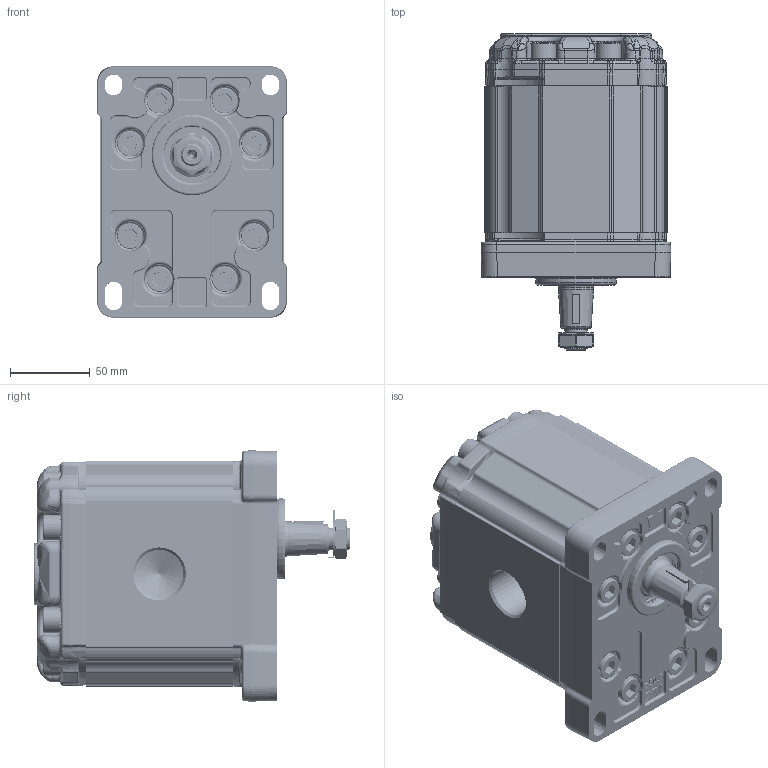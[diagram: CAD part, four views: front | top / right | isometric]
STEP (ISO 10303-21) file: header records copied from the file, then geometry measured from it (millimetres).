
FILE_DESCRIPTION(/* description */ ('Unknown'),/* implementation_level */ '2;1');
FILE_NAME(/* name */ 'X3P8002AEDA',/* time_stamp */ '2023-09-08T14:42:05+02:00',/* author */ ('Unknown'),/* organization */ ('Unknown'),/* preprocessor_version */ 'ST-DEVELOPER v16.7',/* originating_system */ 'Solid Edge',/* authorisation */ 'Unknown');
FILE_SCHEMA (('AUTOMOTIVE_DESIGN {1 0 10303 214 3 1 1}'));
Products named in the file (5): X3P8002AEDA; X3P02; 3A; X3EDH92; XP301-A
Assembly tree (4 placements, depth 2):
  X3P8002AEDA
    X3P02
    3A
    X3EDH92
    XP301-A
Bounding box: 119.2 x 199 x 157.8 mm (x, y, z)
Volume: 2182331.7 mm3; surface area: 223802.9 mm2
Topology: 4 solids, 5 shells, 4574 faces, 14022 edges, 8764 vertices
Faces by surface type: cylinder 1835, plane 1392, bspline 997, torus 200, cone 137, sphere 13
Full cylindrical faces by diameter (mm): 2 x2, 10 x16, 10.35 x30, 10.5 x1, 14 x2, 15.8 x16, 16 x16, 22 x1, 24.117 x2, 24.98 x1, 25 x2, 25.968 x1, 28.16 x1, 30.291 x1, 31 x1, 31.293 x1, 32.742 x1, 34.956 x1, 35 x1, 35.2 x1, 37 x1, 50.8 x1
Entity records: 310275 total; most frequent: CARTESIAN_POINT 163734, ORIENTED_EDGE 27126, DIRECTION 20341, EDGE_CURVE 13563, VERTEX_POINT 8627, AXIS2_PLACEMENT_3D 7741, FACE_BOUND 5022, EDGE_LOOP 5018
